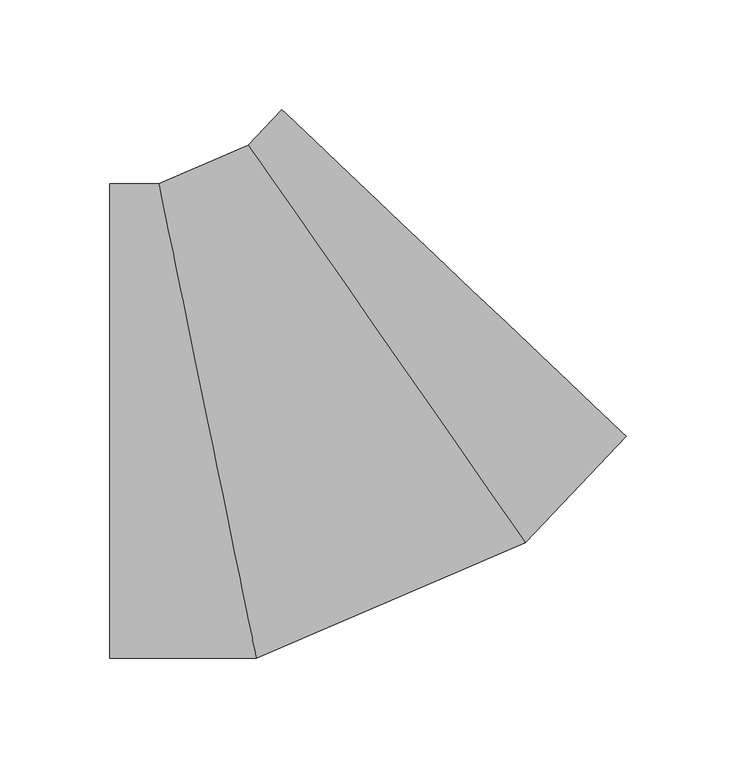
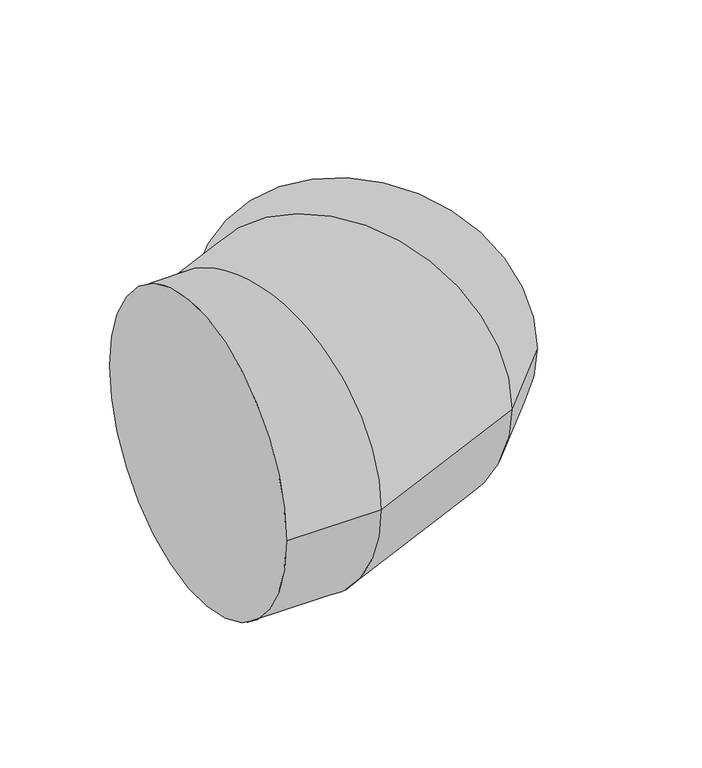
"""IFC4 building model written with IfcOpenShell, lengths in millimetres: duct fitting geometry, 17_Отвод_Заключение : 10_Отвод_3D объект."""

from ifc_helpers import new_model, si_unit, frame, origin, place, context, project, spatial, circle_curve, ellipse_curve, source, transform, mapped, element, save
from ifc_brep_helpers import plane_surface, cylinder_surface, advanced_brep


def duct_fitting_e2463d5c(model_context):
    return source(origin(), model_context, "Body", "AdvancedBrep", [
        advanced_brep(
        [(-92.8397632, -108.0, 0.0), (-92.8397632, 108.0, 0.0), (-26.1591429, -108.0, 0.0), (-70.6128897, 108.0, 0.0), (96.364001, -55.337872, 0.0), (-29.7718418, 125.5540427, 0.0), (142.2492259, -6.9555274, 0.0), (-14.4767668, 141.6814909, 0.0)],
        [
            (0, 1, circle_curve(frame((-92.8397632, 0.0, 0.0), z_axis=(-1.0, 0.0, 0.0), x_axis=(0.0, 1.0, 0.0)), 108.0)),
            (1, 0, circle_curve(frame((-92.8397632, 0.0, 0.0), z_axis=(-1.0, 0.0, 0.0), x_axis=(0.0, 1.0, 0.0)), 108.0)),
            (0, 2),
            (2, 3, ellipse_curve(frame((-48.3860163, 0.0, 0.0), z_axis=(-0.9794721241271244, -0.2015796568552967, 0.0), x_axis=(-0.20157965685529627, 0.9794721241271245, 0.0)), 110.2634749, 108.0)),
            (3, 1),
            (3, 2, ellipse_curve(frame((-48.3860163, 0.0, 0.0), z_axis=(-0.9794721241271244, -0.2015796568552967, 0.0), x_axis=(-0.20157965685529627, 0.9794721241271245, 0.0)), 110.2634749, 108.0)),
            (2, 4),
            (4, 5, ellipse_curve(frame((33.2960796, 35.1080854, 0.0), z_axis=(-0.8202712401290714, -0.5719747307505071, 0.0), x_axis=(-0.5719747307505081, 0.8202712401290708, 0.0)), 110.2634749, 108.0)),
            (5, 3),
            (5, 4, ellipse_curve(frame((33.2960796, 35.1080854, 0.0), z_axis=(-0.8202712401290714, -0.5719747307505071, 0.0), x_axis=(-0.5719747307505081, 0.8202712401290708, 0.0)), 110.2634749, 108.0)),
            (4, 6),
            (6, 7, circle_curve(frame((63.8862295, 67.3629817, 0.0), z_axis=(-0.6881343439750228, -0.7255832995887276, 0.0), x_axis=(-0.7255832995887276, 0.6881343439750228, 0.0)), 108.0)),
            (7, 5),
            (7, 6, circle_curve(frame((63.8862295, 67.3629817, 0.0), z_axis=(-0.6881343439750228, -0.7255832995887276, 0.0), x_axis=(-0.7255832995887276, 0.6881343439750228, 0.0)), 108.0)),
        ],
        [
            plane_surface(frame((-92.8397632, 0.0, 0.0), z_axis=(-1.0, 0.0, 0.0), x_axis=(0.0, 0.0, 1.0))),
            cylinder_surface(frame((-92.8397632, 0.0, 0.0), z_axis=(-1.0, 0.0, 0.0), x_axis=(0.0, 1.0, 0.0)), 108.0),
            cylinder_surface(frame((-48.3860163, 0.0, 0.0), z_axis=(-0.9187312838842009, -0.39488330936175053, 0.0), x_axis=(-0.39488330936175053, 0.9187312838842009, 0.0)), 108.0),
            cylinder_surface(frame((33.2960796, 35.1080854, 0.0), z_axis=(-0.6881343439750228, -0.7255832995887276, 0.0), x_axis=(-0.7255832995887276, 0.6881343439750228, 0.0)), 108.0),
            plane_surface(frame((63.8862295, 67.3629817, 0.0), z_axis=(0.6881343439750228, 0.7255832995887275, 0.0), x_axis=(0.0, 0.0, 1.0))),
        ],
        [
            (0, [[1, 2]]),
            (1, [[-1, 3, 4, 5]]),
            (1, [[-2, -5, 6, -3]]),
            (2, [[-4, 7, 8, 9]]),
            (2, [[-6, -9, 10, -7]]),
            (3, [[-8, 11, 12, 13]]),
            (3, [[-10, -13, 14, -11]]),
            (4, [[-14, -12]]),
        ],
    ),
    ])


if __name__ == "__main__":
    model = new_model("IFC4")
    model_context = context("Model", 3, world=origin())
    ifc_project = project(units=[si_unit("LENGTHUNIT", "METRE", prefix="MILLI")], contexts=[model_context])
    site = spatial("IfcSite", under=ifc_project)
    building = spatial("IfcBuilding", under=site)
    placement = place(None, origin())
    duct_fitting_shape = duct_fitting_e2463d5c(model_context)
    element("IfcDuctFitting", 1, ObjectType="17_Отвод_Заключение : 10_Отвод_3D объект", at=placement, inside=building, context=model_context, shape_type="MappedRepresentation", body=[
        mapped(duct_fitting_shape, transform((0.0, 0.0, 0.0), x_axis=(1.0, 0.0, 0.0), y_axis=(0.0, 1.0, 0.0), z_axis=(0.0, 0.0, 1.0))),
    ])
    save(model, "model.ifc")
